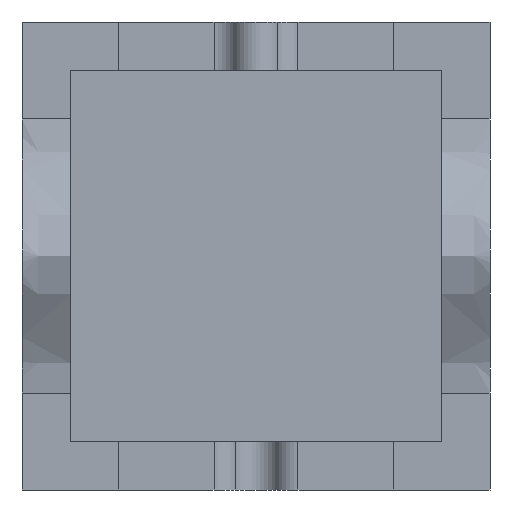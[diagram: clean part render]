
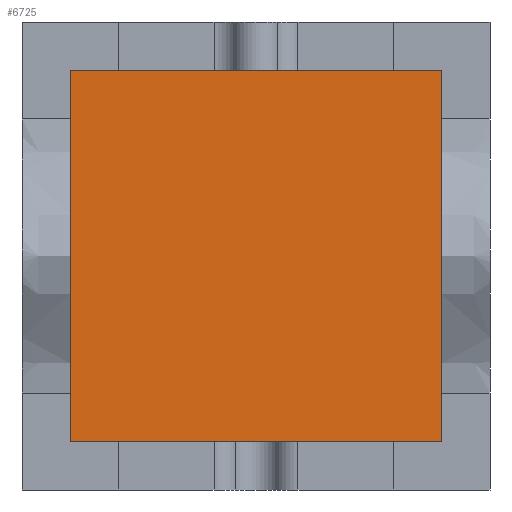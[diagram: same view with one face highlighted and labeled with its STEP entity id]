
A CAD part, front view. The second image highlights one B-rep face of the part: STEP entity #6725.
In plain terms, the highlighted planar face has unit normal (0, -1, 0).
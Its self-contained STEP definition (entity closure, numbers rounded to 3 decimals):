
#6599=CARTESIAN_POINT('Vertex',(-20.,-30.,-20.)) ;
#6604=CARTESIAN_POINT('Line Origine',(-20.,-30.,56.5)) ;
#6608=CARTESIAN_POINT('Vertex',(-20.,-30.,133.)) ;
#6635=CARTESIAN_POINT('Line Origine',(56.5,-30.,133.)) ;
#6639=CARTESIAN_POINT('Vertex',(133.,-30.,133.)) ;
#6666=CARTESIAN_POINT('Line Origine',(133.,-30.,56.5)) ;
#6670=CARTESIAN_POINT('Vertex',(133.,-30.,-20.)) ;
#6697=CARTESIAN_POINT('Line Origine',(56.5,-30.,-20.)) ;
#6714=CARTESIAN_POINT('Axis2P3D Location',(0.,-30.,0.)) ;
#6605=DIRECTION('Vector Direction',(0.,0.,-1.)) ;
#6636=DIRECTION('Vector Direction',(1.,0.,0.)) ;
#6667=DIRECTION('Vector Direction',(0.,0.,1.)) ;
#6698=DIRECTION('Vector Direction',(-1.,0.,0.)) ;
#6715=DIRECTION('Axis2P3D Direction',(0.,1.,0.)) ;
#6716=DIRECTION('Axis2P3D XDirection',(-1.,0.,0.)) ;
#6717=AXIS2_PLACEMENT_3D('Plane Axis2P3D',#6714,#6715,#6716) ;
#6720=ORIENTED_EDGE('',*,*,#6701,.F.) ;
#6721=ORIENTED_EDGE('',*,*,#6672,.F.) ;
#6722=ORIENTED_EDGE('',*,*,#6641,.F.) ;
#6723=ORIENTED_EDGE('',*,*,#6610,.F.) ;
#6606=VECTOR('Line Direction',#6605,1.) ;
#6637=VECTOR('Line Direction',#6636,1.) ;
#6668=VECTOR('Line Direction',#6667,1.) ;
#6699=VECTOR('Line Direction',#6698,1.) ;
#6725=ADVANCED_FACE('Cavity-molde',(#6724),#6718,.F.) ;
#6610=EDGE_CURVE('',#6600,#6609,#6607,.F.) ;
#6641=EDGE_CURVE('',#6609,#6640,#6638,.T.) ;
#6672=EDGE_CURVE('',#6640,#6671,#6669,.F.) ;
#6701=EDGE_CURVE('',#6671,#6600,#6700,.T.) ;
#6719=EDGE_LOOP('',(#6720,#6721,#6722,#6723)) ;
#6724=FACE_OUTER_BOUND('',#6719,.T.) ;
#6607=LINE('Line',#6604,#6606) ;
#6638=LINE('Line',#6635,#6637) ;
#6669=LINE('Line',#6666,#6668) ;
#6700=LINE('Line',#6697,#6699) ;
#6718=PLANE('',#6717) ;
#6600=VERTEX_POINT('',#6599) ;
#6609=VERTEX_POINT('',#6608) ;
#6640=VERTEX_POINT('',#6639) ;
#6671=VERTEX_POINT('',#6670) ;
